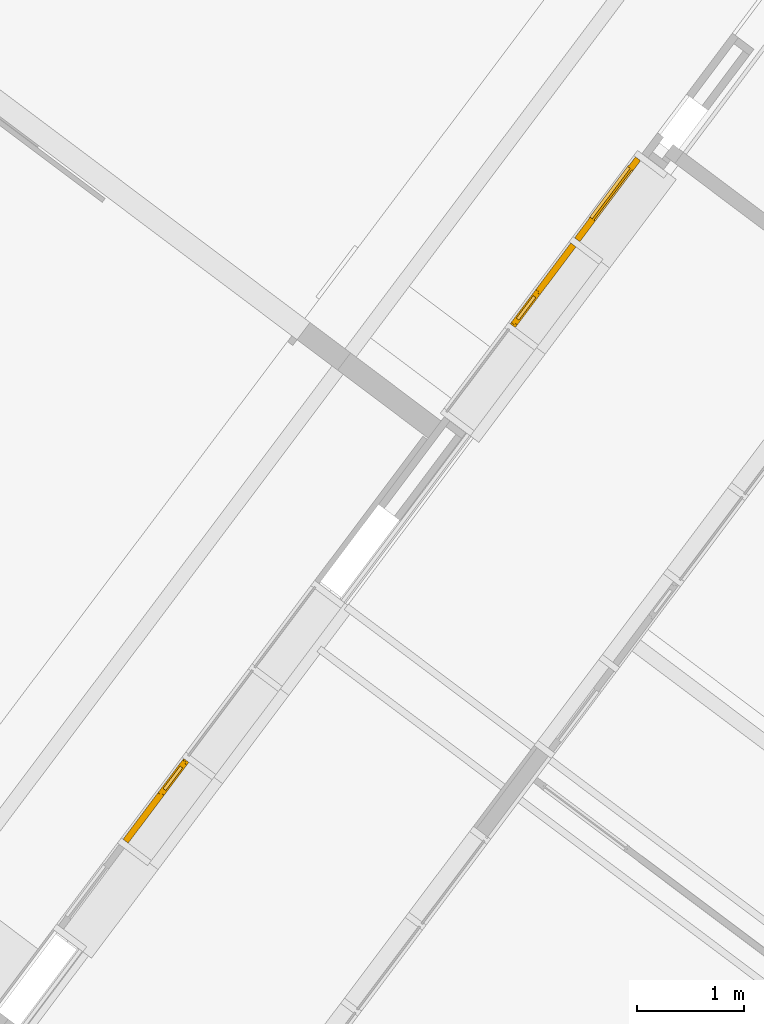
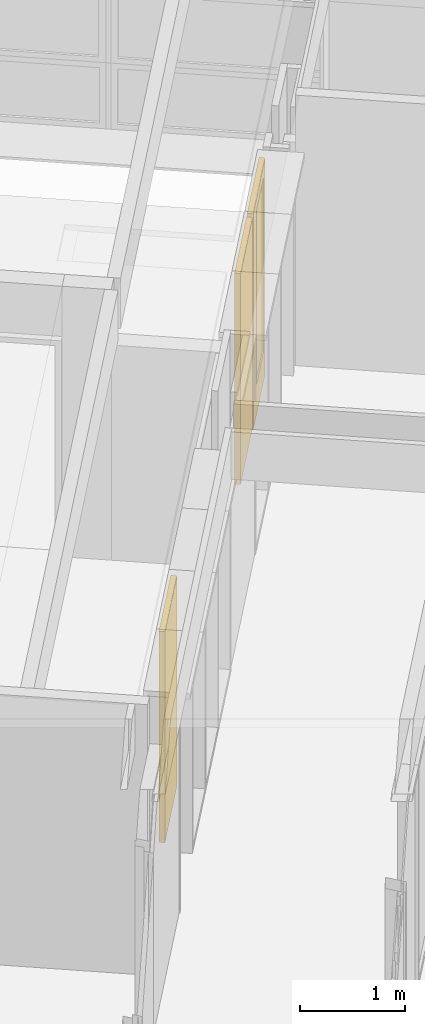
# One storey, part 230 of 243: 2 windows, 1 door, 2 elements without a shape of their own.
"""IFC2X3 building model written with IfcOpenShell, lengths in metres."""

from ifc_helpers import new_model, entity, si_unit, converted_unit, derived_unit, direction, frame, origin, place, context, subcontext, project, spatial, faceted_brep, source, transform, mapped, material, material_list, type_object, type_shapes, element, aggregate, save


model = new_model("IFC2X3")

# Units and contexts
model_context = context("Model", 3, precision=1e-05, world=origin(), true_north=direction((6.123031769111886e-17, 1.0)))
body_context = subcontext(model_context, "Body", "Model", "MODEL_VIEW")
ifc_project = project(units=[si_unit("LENGTHUNIT", "METRE"), si_unit("AREAUNIT", "SQUARE_METRE"), si_unit("VOLUMEUNIT", "CUBIC_METRE"), converted_unit("PLANEANGLEUNIT", "DEGREE", entity("IfcRatioMeasure", 0.017453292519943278), si_unit("PLANEANGLEUNIT", "RADIAN"), dimensions=[0, 0, 0, 0, 0, 0, 0]), si_unit("MASSUNIT", "GRAM", prefix="KILO"), derived_unit("MASSDENSITYUNIT", [(si_unit("MASSUNIT", "GRAM", prefix="KILO"), 1), (si_unit("LENGTHUNIT", "METRE"), -3)]), derived_unit("IONCONCENTRATIONUNIT", [(si_unit("MASSUNIT", "GRAM", prefix="KILO"), 1), (si_unit("LENGTHUNIT", "METRE"), -3)]), derived_unit("MOMENTOFINERTIAUNIT", [(si_unit("LENGTHUNIT", "METRE"), 4)]), si_unit("TIMEUNIT", "SECOND"), si_unit("FREQUENCYUNIT", "HERTZ"), si_unit("THERMODYNAMICTEMPERATUREUNIT", "DEGREE_CELSIUS"), derived_unit("THERMALTRANSMITTANCEUNIT", [(si_unit("MASSUNIT", "GRAM", prefix="KILO"), 1), (si_unit("THERMODYNAMICTEMPERATUREUNIT", "KELVIN"), -1), (si_unit("TIMEUNIT", "SECOND"), -3)]), derived_unit("THERMALCONDUCTANCEUNIT", [(si_unit("MASSUNIT", "GRAM", prefix="KILO"), 1), (si_unit("THERMODYNAMICTEMPERATUREUNIT", "KELVIN"), -1), (si_unit("TIMEUNIT", "SECOND"), -3), (si_unit("LENGTHUNIT", "METRE"), 1)]), derived_unit("VOLUMETRICFLOWRATEUNIT", [(si_unit("LENGTHUNIT", "METRE"), 3), (si_unit("TIMEUNIT", "SECOND"), -1)]), derived_unit("MASSFLOWRATEUNIT", [(si_unit("MASSUNIT", "GRAM", prefix="KILO"), 1), (si_unit("TIMEUNIT", "SECOND"), -1)]), derived_unit("ROTATIONALFREQUENCYUNIT", [(si_unit("TIMEUNIT", "SECOND"), -1)]), si_unit("ELECTRICCURRENTUNIT", "AMPERE"), si_unit("ELECTRICVOLTAGEUNIT", "VOLT"), si_unit("POWERUNIT", "WATT"), si_unit("FORCEUNIT", "NEWTON", prefix="KILO"), si_unit("ILLUMINANCEUNIT", "LUX"), si_unit("LUMINOUSFLUXUNIT", "LUMEN"), si_unit("LUMINOUSINTENSITYUNIT", "CANDELA"), derived_unit("USERDEFINED", [(si_unit("MASSUNIT", "GRAM", prefix="KILO"), -1), (si_unit("LENGTHUNIT", "METRE"), -2), (si_unit("TIMEUNIT", "SECOND"), 3), (si_unit("LUMINOUSFLUXUNIT", "LUMEN"), 1)]), derived_unit("USERDEFINED", [(si_unit("MASSUNIT", "GRAM", prefix="KILO"), 1), (si_unit("TIMEUNIT", "SECOND"), -3), (si_unit("LENGTHUNIT", "METRE"), 3), (si_unit("ELECTRICCURRENTUNIT", "AMPERE"), -2)]), derived_unit("SOUNDPOWERUNIT", [(si_unit("MASSUNIT", "GRAM", prefix="KILO"), 1), (si_unit("TIMEUNIT", "SECOND"), -3), (si_unit("LENGTHUNIT", "METRE"), 2)]), derived_unit("SOUNDPRESSUREUNIT", [(si_unit("MASSUNIT", "GRAM", prefix="KILO"), 1), (si_unit("LENGTHUNIT", "METRE"), -1), (si_unit("TIMEUNIT", "SECOND"), -2)]), derived_unit("LINEARVELOCITYUNIT", [(si_unit("LENGTHUNIT", "METRE"), 1), (si_unit("TIMEUNIT", "SECOND"), -1)]), si_unit("PRESSUREUNIT", "PASCAL"), derived_unit("USERDEFINED", [(si_unit("MASSUNIT", "GRAM", prefix="KILO"), 1), (si_unit("LENGTHUNIT", "METRE"), -2), (si_unit("TIMEUNIT", "SECOND"), -2)]), derived_unit("LINEARFORCEUNIT", [(si_unit("MASSUNIT", "GRAM", prefix="KILO"), 1), (si_unit("TIMEUNIT", "SECOND"), -2)]), derived_unit("PLANARFORCEUNIT", [(si_unit("MASSUNIT", "GRAM", prefix="KILO"), 1), (si_unit("LENGTHUNIT", "METRE"), -1), (si_unit("TIMEUNIT", "SECOND"), -2)]), derived_unit("SPECIFICHEATCAPACITYUNIT", [(si_unit("THERMODYNAMICTEMPERATUREUNIT", "KELVIN"), -1), (si_unit("LENGTHUNIT", "METRE"), 2), (si_unit("TIMEUNIT", "SECOND"), -2)]), derived_unit("HEATINGVALUEUNIT", [(si_unit("LENGTHUNIT", "METRE"), 2), (si_unit("TIMEUNIT", "SECOND"), -2)]), derived_unit("VAPORPERMEABILITYUNIT", [(si_unit("LENGTHUNIT", "METRE"), -1), (si_unit("TIMEUNIT", "SECOND"), 1)]), derived_unit("DYNAMICVISCOSITYUNIT", [(si_unit("MASSUNIT", "GRAM", prefix="KILO"), 1), (si_unit("TIMEUNIT", "SECOND"), -1), (si_unit("LENGTHUNIT", "METRE"), -1)]), derived_unit("THERMALEXPANSIONCOEFFICIENTUNIT", [(si_unit("THERMODYNAMICTEMPERATUREUNIT", "KELVIN"), -1)]), derived_unit("MODULUSOFELASTICITYUNIT", [(si_unit("MASSUNIT", "GRAM", prefix="KILO"), 1), (si_unit("LENGTHUNIT", "METRE"), -1), (si_unit("TIMEUNIT", "SECOND"), -2)]), derived_unit("ISOTHERMALMOISTURECAPACITYUNIT", [(si_unit("LENGTHUNIT", "METRE"), 3), (si_unit("MASSUNIT", "GRAM", prefix="KILO"), -1)]), derived_unit("MOISTUREDIFFUSIVITYUNIT", [(si_unit("TIMEUNIT", "SECOND"), -1), (si_unit("LENGTHUNIT", "METRE"), 2)])], contexts=[model_context])

# Site, building, storey
site_placement = place(None, frame((0.0, 0.0, 235.0), z_axis=(0.0, 0.0, 1.0), x_axis=(-0.7996477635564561, 0.6004693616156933, 0.0)))
site = spatial("IfcSite", under=ifc_project, at=site_placement, Name="Default", CompositionType="ELEMENT")
building_placement = place(site_placement, origin())
building = spatial("IfcBuilding", under=site, at=building_placement, CompositionType="ELEMENT")
storey_placement = place(building_placement, origin())
storey = spatial("IfcBuildingStorey", under=building, at=storey_placement, Name="P0- Escola", CompositionType="ELEMENT", Elevation=0.0)

# Curtain wall, door, window
curtain_wall_type = type_object("IfcCurtainWallType", Name="Muro cortina:MC- INT- a4", PredefinedType="NOTDEFINED")
curtain_wall_1_placement = place(storey_placement, origin())
curtain_wall_1 = element("IfcCurtainWall", 1, at=curtain_wall_1_placement, inside=storey, type_object=curtain_wall_type, Name="Muro cortina:MC- INT- a4", ObjectType="Muro cortina:MC- INT- a4")
ifc_material_1 = material(Name="_Fusta massisa- T1")
ifc_material_2 = material(Name="_Vidre")
ifc_material_list = material_list([ifc_material_1, ifc_material_2])
door_style = type_object("IfcDoorStyle", Name="MC- Fusta- conjunt porta:MC- Fusta- conjunt Porta aules", ConstructionType="NOTDEFINED", OperationType="NOTDEFINED", ParameterTakesPrecedence=False, Sizeable=False, material=ifc_material_list)
shared_shape_1 = source(origin(), body_context, "Body", "Brep", [
    faceted_brep([(0.24625000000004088, -0.024999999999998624, 2.3950000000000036), (0.24625000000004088, -0.024999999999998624, 0.3299999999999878), (0.24625000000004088, 0.005000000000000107, 0.3299999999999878), (0.24625000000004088, 0.005000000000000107, 2.3950000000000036), (-0.3712500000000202, -0.024999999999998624, 0.3299999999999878), (-0.3712500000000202, 0.005000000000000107, 0.3299999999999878), (-0.3712500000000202, -0.024999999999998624, 2.3950000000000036), (-0.3712500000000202, 0.005000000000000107, 2.3950000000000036), (0.2312500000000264, 0.005000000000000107, 2.380000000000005), (-0.35625000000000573, 0.005000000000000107, 2.380000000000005), (-0.3562500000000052, 0.005000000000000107, 0.3449999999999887), (0.2312500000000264, 0.005000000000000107, 0.3449999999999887), (0.2312500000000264, -0.024999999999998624, 2.380000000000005), (0.2312500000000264, -0.024999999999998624, 0.3449999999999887), (-0.3562500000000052, -0.024999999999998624, 0.3449999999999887), (-0.35625000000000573, -0.024999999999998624, 2.380000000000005)], [[[0, 1, 2, 3]], [[1, 4, 5, 2]], [[4, 6, 7, 5]], [[8, 9, 10, 11], [3, 2, 5, 7]], [[12, 13, 14, 15], [0, 6, 4, 1]], [[13, 12, 8, 11]], [[14, 13, 11, 10]], [[15, 14, 10, 9]], [[6, 0, 3, 7]], [[12, 15, 9, 8]]], outer=[[True], [True], [True], [False, True], [False, True], [True], [True], [True], [True], [True]]),
    faceted_brep([(0.44125000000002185, 0.039999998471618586, 0.0), (0.44125000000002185, 0.009999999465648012, 0.0), (0.45625000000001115, 0.009999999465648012, 0.0), (0.45625000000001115, -0.019999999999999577, 0.0), (-0.4562500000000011, -0.0199999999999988, 0.0), (-0.4562500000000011, 0.009999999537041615, 0.0), (-0.4412499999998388, 0.009999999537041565, 0.0), (-0.4412499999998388, 0.039999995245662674, 0.0), (0.4562500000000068, -0.019999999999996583, 2.5050000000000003), (-0.4562500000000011, -0.01999999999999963, 2.5050000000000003), (0.24625000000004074, -0.01999999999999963, 0.3300000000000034), (-0.3712500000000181, -0.0199999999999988, 0.3300000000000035), (-0.3712500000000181, -0.020000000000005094, 2.394999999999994), (0.2462500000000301, -0.01999999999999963, 2.394999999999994), (0.4562500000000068, 0.009999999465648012, 2.5050000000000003), (-0.4562500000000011, 0.009999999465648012, 2.5050000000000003), (0.44125000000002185, 0.039999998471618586, 2.4899999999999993), (0.44125000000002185, 0.009999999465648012, 2.4899999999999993), (-0.4412499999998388, 0.009999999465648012, 2.4899999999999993), (-0.4412499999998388, 0.039999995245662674, 2.4899999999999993), (-0.35625000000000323, 0.03999999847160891, 0.3450000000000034), (0.2312500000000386, 0.039999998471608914, 0.3450000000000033), (0.2312500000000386, 0.03999999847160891, 2.379999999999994), (-0.3562500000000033, 0.03999999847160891, 2.379999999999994), (-0.35625000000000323, 0.025000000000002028, 0.3450000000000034), (0.2312500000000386, 0.025000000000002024, 0.3450000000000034), (0.2312500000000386, 0.024999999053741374, 2.379999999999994), (-0.3562500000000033, 0.03999999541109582, 2.379999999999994), (-0.3562500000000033, 0.024999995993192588, 2.379999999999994), (0.2312500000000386, 0.025000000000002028, 2.379999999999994), (-0.3712500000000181, 0.025000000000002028, 0.3300000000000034), (0.24625000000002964, 0.025000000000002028, 0.3300000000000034), (0.24625000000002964, 0.025000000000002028, 2.394999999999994), (-0.3712500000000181, 0.025000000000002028, 2.394999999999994), (0.24625000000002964, 0.02499999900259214, 0.3300000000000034), (-0.3712500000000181, 0.024999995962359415, 2.394999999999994), (0.24625000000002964, 0.024999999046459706, 2.394999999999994)], [[[0, 1, 2, 3, 4, 5, 6, 7]], [[8, 9, 4, 3], [10, 11, 12, 13]], [[8, 3, 2, 14]], [[15, 5, 4, 9]], [[16, 17, 1, 0]], [[14, 2, 1, 17, 18, 6, 5, 15]], [[18, 19, 7, 6]], [[16, 0, 7, 19], [20, 21, 22, 23]], [[21, 20, 24, 25]], [[21, 25, 26, 22]], [[24, 20, 27, 28]], [[25, 24, 28, 29], [30, 31, 32, 33]], [[11, 10, 31, 30]], [[34, 10, 13, 32]], [[11, 30, 35, 12]], [[9, 8, 14, 15]], [[17, 16, 19, 18]], [[23, 22, 29, 28]], [[13, 12, 33, 36]]], outer=[[True], [True, False], [True], [True], [True], [True], [True], [True, False], [True], [True], [True], [False, True], [True], [True], [True], [True], [True], [True], [True]]),
    faceted_brep([(-0.3712500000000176, 0.024999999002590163, 0.3300000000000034), (0.24625000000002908, 0.024999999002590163, 0.3300000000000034), (0.24625000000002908, 0.005000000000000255, 0.3300000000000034), (-0.3712500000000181, 0.005000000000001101, 0.3300000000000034), (-0.3712500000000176, 0.024999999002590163, 2.3950000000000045), (0.24625000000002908, 0.024999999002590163, 2.3950000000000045), (0.24625000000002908, 0.005000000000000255, 2.3950000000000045), (-0.3712500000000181, 0.005000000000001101, 2.3950000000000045)], [[[0, 1, 2, 3]], [[4, 5, 1, 0]], [[5, 6, 2, 1]], [[6, 7, 3, 2]], [[7, 4, 0, 3]], [[4, 7, 6, 5]]]),
    faceted_brep([(0.4662500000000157, -0.01999999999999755, 0.0), (0.4562500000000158, -0.01999999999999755, 0.0), (0.4562500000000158, 0.010000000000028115, 0.0), (0.4412500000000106, 0.010000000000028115, 0.0), (0.4412500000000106, 0.0400000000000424, 0.0), (0.4662500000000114, 0.0400000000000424, 0.0), (0.4662500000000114, 0.03600000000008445, 0.0), (0.47125000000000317, 0.03600000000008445, 0.0), (0.47125000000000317, -0.015999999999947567, 0.0), (0.4662500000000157, -0.015999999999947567, 0.0), (0.4662500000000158, -0.01999999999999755, 2.5150000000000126), (-0.4662500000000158, -0.01999999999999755, 2.5150000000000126), (-0.4662500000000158, -0.01999999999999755, 0.0), (-0.4562500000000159, -0.01999999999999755, 0.0), (-0.4562500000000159, -0.01999999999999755, 2.5050000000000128), (0.4562500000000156, -0.01999999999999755, 2.505000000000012), (0.4562500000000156, 0.010000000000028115, 2.505000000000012), (-0.4562500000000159, 0.010000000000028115, 2.5050000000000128), (-0.4562500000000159, 0.010000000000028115, 0.0), (-0.4412500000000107, 0.010000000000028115, 0.0), (-0.4412500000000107, 0.010000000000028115, 2.4900000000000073), (0.44125000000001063, 0.010000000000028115, 2.4900000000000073), (0.44125000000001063, 0.0400000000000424, 2.4900000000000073), (-0.4412500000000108, 0.0400000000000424, 2.4900000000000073), (-0.4412500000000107, 0.0400000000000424, 0.0), (-0.4662500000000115, 0.0400000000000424, 0.0), (-0.4662500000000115, 0.0400000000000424, 2.515000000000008), (0.46625000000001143, 0.0400000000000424, 2.515000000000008), (0.46625000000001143, 0.03600000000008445, 2.515000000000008), (-0.46625000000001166, 0.03600000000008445, 2.515000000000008), (-0.4662500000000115, 0.03600000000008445, 0.0), (-0.47125000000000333, 0.03600000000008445, 0.0), (-0.47125000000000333, 0.03600000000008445, 2.52), (0.4712500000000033, 0.03600000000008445, 2.52), (0.4712500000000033, -0.015999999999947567, 2.52), (-0.47125000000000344, -0.015999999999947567, 2.52), (-0.47125000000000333, -0.015999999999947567, 0.0), (-0.4662500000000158, -0.015999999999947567, 0.0), (-0.4662500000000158, -0.015999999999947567, 2.5150000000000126), (0.4662500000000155, -0.015999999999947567, 2.515000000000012)], [[[0, 1, 2, 3, 4, 5, 6, 7, 8, 9]], [[1, 0, 10, 11, 12, 13, 14, 15]], [[2, 1, 15, 16]], [[3, 2, 16, 17, 18, 19, 20, 21]], [[4, 3, 21, 22]], [[5, 4, 22, 23, 24, 25, 26, 27]], [[6, 5, 27, 28]], [[7, 6, 28, 29, 30, 31, 32, 33]], [[8, 7, 33, 34]], [[9, 8, 34, 35, 36, 37, 38, 39]], [[0, 9, 39, 10]], [[11, 38, 37, 12]], [[12, 37, 36, 31, 30, 25, 24, 19, 18, 13]], [[17, 14, 13, 18]], [[23, 20, 19, 24]], [[29, 26, 25, 30]], [[35, 32, 31, 36]], [[16, 15, 14, 17]], [[22, 21, 20, 23]], [[28, 27, 26, 29]], [[34, 33, 32, 35]], [[10, 39, 38, 11]]]),
])
type_shapes(door_style, [shared_shape_1])
door_placement = place(curtain_wall_1_placement, frame((15.955147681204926, -38.91644175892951, 0.0), z_axis=(0.0, 0.0, 1.0), x_axis=(0.0, 1.0, 0.0)))
door = element("IfcDoor", 2, at=door_placement, type_object=door_style, material=ifc_material_list, Name="MC- Fusta- conjunt porta:MC- Fusta- conjunt Porta aules", ObjectType="MC- Fusta- conjunt porta:MC- Fusta- conjunt Porta aules", OverallHeight=2.52, OverallWidth=0.9425000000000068, context=body_context, shape_type="MappedRepresentation", body=[
    mapped(shared_shape_1, transform((0.0, 0.0, 0.0), scale=1.0)),
])
ifc_material_3 = material(Name="_Fusta massisa- T1-  REV- PAV")
window_style_1 = type_object("IfcWindowStyle", Name="MC- Fusta- Finestra ventilacio interior:MC- Fusta- Finestra ventilacio interior", ConstructionType="NOTDEFINED", OperationType="NOTDEFINED", ParameterTakesPrecedence=False, Sizeable=False, material=ifc_material_3)
shared_shape_2 = source(origin(), body_context, "Body", "Brep", [
    faceted_brep([(0.3930000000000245, 0.025000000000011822, 2.382999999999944), (0.13200000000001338, 0.0250000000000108, 2.3829999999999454), (0.13200000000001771, 0.025000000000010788, 1.0449999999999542), (0.3930000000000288, 0.025000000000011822, 1.0449999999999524), (0.13200000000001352, -0.004999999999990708, 2.3829999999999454), (0.13200000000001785, -0.004999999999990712, 1.0449999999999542), (0.3930000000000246, -0.004999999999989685, 2.382999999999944), (0.393000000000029, -0.00499999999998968, 1.0449999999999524), (0.08700000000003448, 0.04000000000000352, 2.427999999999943), (0.08700000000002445, 0.04000000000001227, 1.0), (0.08700000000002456, 0.01000000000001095, 1.0), (0.0870000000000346, 0.01000000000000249, 2.427999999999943), (0.4380000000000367, 0.010000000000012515, 1.0), (0.4380000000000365, 0.04000000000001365, 1.0), (0.43800000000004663, 0.0400000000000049, 2.427999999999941), (0.4380000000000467, 0.010000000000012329, 2.428000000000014), (0.07200000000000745, 0.009999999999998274, 0.9850000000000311), (0.07200000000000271, 0.010000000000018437, 2.44300000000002), (0.4530000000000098, 0.010000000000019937, 2.4430000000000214), (0.4530000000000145, 0.009999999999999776, 0.9850000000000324), (0.07200000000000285, -0.019999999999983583, 2.443000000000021), (0.07200000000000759, -0.020000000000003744, 0.9850000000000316), (0.45300000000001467, -0.02000000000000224, 0.985000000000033), (0.4530000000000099, -0.019999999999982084, 2.443000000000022)], [[[0, 1, 2, 3]], [[1, 4, 5, 2]], [[4, 6, 7, 5]], [[3, 7, 6, 0]], [[8, 9, 10, 11]], [[12, 13, 14, 15]], [[15, 14, 8, 11]], [[8, 14, 13, 9]], [[0, 6, 4, 1]], [[2, 5, 7, 3]], [[9, 13, 12, 10]], [[11, 10, 12, 15], [16, 17, 18, 19]], [[20, 21, 22, 23]], [[20, 23, 18, 17]], [[16, 21, 20, 17]], [[18, 23, 22, 19]], [[16, 19, 22, 21]]], outer=[[True], [True], [True], [True], [True], [True], [True], [True], [True], [True], [True], [False, True], [True], [True], [True], [True], [True]]),
    faceted_brep([(0.45500000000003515, -0.019999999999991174, 0.9850000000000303), (0.07000000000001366, -0.019999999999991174, 0.9850000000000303), (0.07000000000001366, -0.019999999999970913, 2.4449999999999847), (0.45500000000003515, -0.01999999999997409, 2.444999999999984), (-0.46500000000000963, -0.019999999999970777, 2.4549999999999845), (-0.4650000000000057, -0.020000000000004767, 0.005000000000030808), (0.46500000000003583, -0.020000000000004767, 0.00499999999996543), (0.46500000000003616, -0.019999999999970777, 2.4549999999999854), (0.4650000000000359, -0.01599999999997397, 2.454999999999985), (0.4650000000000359, -0.01600000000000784, 0.00499999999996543), (-0.46500000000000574, -0.01600000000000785, 0.005000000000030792), (0.47000000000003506, -0.015999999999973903, 2.459999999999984), (-0.47000000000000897, -0.015999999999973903, 2.459999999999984), (-0.4700000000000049, -0.016000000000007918, 0.0), (0.47000000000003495, -0.016000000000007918, 0.0), (-0.46500000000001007, -0.01599999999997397, 2.455000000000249), (-0.46500000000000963, 0.03600000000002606, 2.454999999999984), (-0.4650000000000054, 0.03599999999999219, 0.005000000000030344), (0.4650000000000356, 0.03599999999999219, 0.00499999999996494), (0.46500000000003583, 0.03600000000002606, 2.454999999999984), (-0.47000000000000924, 0.036000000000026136, 2.459999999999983), (0.470000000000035, 0.036000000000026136, 2.459999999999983), (0.46999999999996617, 0.03599999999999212, 0.0), (-0.4700000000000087, 0.03599999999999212, 0.0), (-0.46500000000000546, 0.03999999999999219, 0.005000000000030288), (0.46500000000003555, 0.03999999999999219, 0.005000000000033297), (0.08500000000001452, 0.040000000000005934, 1.0), (0.4400000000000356, 0.04000000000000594, 1.0), (0.4400000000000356, 0.040000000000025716, 2.4299999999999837), (0.08500000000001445, 0.040000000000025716, 2.4299999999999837), (-0.46500000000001, 0.040000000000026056, 2.4550000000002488), (0.4650000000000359, 0.040000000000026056, 2.454999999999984), (0.45500000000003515, 0.010000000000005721, 0.9850000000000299), (0.4550000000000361, 0.010000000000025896, 2.4449999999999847), (0.08500000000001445, 0.0100000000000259, 2.444999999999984), (0.07000000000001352, 0.010000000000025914, 2.444999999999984), (0.07000000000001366, 0.010000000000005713, 0.9850000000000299), (0.08500000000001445, 0.010000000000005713, 0.9850000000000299), (0.4400000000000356, 0.01000000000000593, 1.0), (0.08500000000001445, 0.010000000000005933, 1.0), (0.08500000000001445, 0.010000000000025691, 2.4299999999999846), (0.4400000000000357, 0.010000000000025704, 2.429999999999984)], [[[0, 1, 2, 3], [4, 5, 6, 7]], [[8, 7, 6, 9]], [[5, 10, 9, 6]], [[11, 12, 13, 14], [10, 15, 8, 9]], [[16, 17, 18, 19], [20, 21, 22, 23]], [[17, 24, 25, 18]], [[26, 27, 28, 29], [24, 30, 31, 25]], [[32, 33, 34, 35, 36, 37], [38, 39, 40, 41]], [[26, 39, 38, 27]], [[39, 26, 29, 40]], [[41, 28, 27, 38]], [[3, 33, 32, 0]], [[1, 36, 35, 2]], [[36, 1, 0, 32, 37]], [[4, 15, 10, 5]], [[16, 30, 24, 17]], [[12, 20, 23, 13]], [[13, 23, 22, 14]], [[21, 11, 14, 22]], [[7, 8, 15, 4]], [[11, 21, 20, 12]], [[33, 3, 2, 35, 34]], [[28, 41, 40, 29]], [[19, 31, 30, 16]], [[31, 19, 18, 25]]], outer=[[False, True], [True], [True], [True, False], [False, True], [True], [False, True], [True, False], [True], [True], [True], [True], [True], [True], [True], [True], [True], [True], [True], [True], [True], [True], [True], [True], [True]]),
])
type_shapes(window_style_1, [shared_shape_2])
window_1_placement = place(curtain_wall_1_placement, frame((15.955147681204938, -37.9151917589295, 0.06), z_axis=(0.0, 0.0, 1.0), x_axis=(0.0, 1.0, 0.0)))
window_1 = element("IfcWindow", 3, at=window_1_placement, type_object=window_style_1, material=ifc_material_3, Name="MC- Fusta- Finestra ventilacio interior:MC- Fusta- Finestra ventilacio interior", ObjectType="MC- Fusta- Finestra ventilacio interior:MC- Fusta- Finestra ventilacio interior", OverallHeight=2.460000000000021, OverallWidth=0.9400000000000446, context=body_context, shape_type="MappedRepresentation", body=[
    mapped(shared_shape_2, transform((0.0, 0.0, 0.0), scale=1.0)),
])
aggregate(curtain_wall_1, [door, window_1])

# Curtain wall, window
curtain_wall_2_placement = place(storey_placement, origin())
curtain_wall_2 = element("IfcCurtainWall", 4, at=curtain_wall_2_placement, inside=storey, type_object=curtain_wall_type, Name="Muro cortina:MC- INT- a4", ObjectType="Muro cortina:MC- INT- a4")
window_style_2 = type_object("IfcWindowStyle", Name="MC- Fusta- Finestra ventilacio interior:MC- Fusta- Finestra ventilacio interior", ConstructionType="NOTDEFINED", OperationType="NOTDEFINED", ParameterTakesPrecedence=False, Sizeable=False, material=ifc_material_3)
shared_shape_3 = source(origin(), body_context, "Body", "Brep", [
    faceted_brep([(-0.3930000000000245, 0.025000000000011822, 2.382999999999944), (-0.3930000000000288, 0.025000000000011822, 1.0449999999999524), (-0.13200000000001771, 0.0250000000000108, 1.0449999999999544), (-0.13200000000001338, 0.02500000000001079, 2.382999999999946), (-0.13200000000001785, -0.004999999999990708, 1.0449999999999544), (-0.13200000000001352, -0.004999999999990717, 2.382999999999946), (-0.393000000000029, -0.004999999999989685, 1.0449999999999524), (-0.39300000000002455, -0.004999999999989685, 2.382999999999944), (-0.08700000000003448, 0.04000000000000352, 2.427999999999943), (-0.0870000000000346, 0.01000000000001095, 2.428000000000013), (-0.08700000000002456, 0.010000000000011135, 1.0), (-0.08700000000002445, 0.04000000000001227, 1.0), (-0.4380000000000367, 0.010000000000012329, 1.0), (-0.4380000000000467, 0.010000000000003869, 2.427999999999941), (-0.43800000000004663, 0.0400000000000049, 2.427999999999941), (-0.4380000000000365, 0.04000000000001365, 1.0), (-0.07200000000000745, 0.009999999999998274, 0.9850000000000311), (-0.4530000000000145, 0.009999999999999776, 0.9850000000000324), (-0.4530000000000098, 0.010000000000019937, 2.4430000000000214), (-0.07200000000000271, 0.010000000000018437, 2.44300000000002), (-0.07200000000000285, -0.019999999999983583, 2.443000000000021), (-0.4530000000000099, -0.019999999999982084, 2.443000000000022), (-0.45300000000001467, -0.02000000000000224, 0.985000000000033), (-0.07200000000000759, -0.020000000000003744, 0.9850000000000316)], [[[0, 1, 2, 3]], [[3, 2, 4, 5]], [[5, 4, 6, 7]], [[1, 0, 7, 6]], [[8, 9, 10, 11]], [[12, 13, 14, 15]], [[13, 9, 8, 14]], [[8, 11, 15, 14]], [[0, 3, 5, 7]], [[2, 1, 6, 4]], [[11, 10, 12, 15]], [[9, 13, 12, 10], [16, 17, 18, 19]], [[20, 21, 22, 23]], [[20, 19, 18, 21]], [[16, 19, 20, 23]], [[18, 17, 22, 21]], [[16, 23, 22, 17]]], outer=[[True], [True], [True], [True], [True], [True], [True], [True], [True], [True], [True], [False, True], [True], [True], [True], [True], [True]]),
    faceted_brep([(0.46500000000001, -0.019999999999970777, 2.4549999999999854), (-0.465000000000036, -0.019999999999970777, 2.4549999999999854), (-0.46499999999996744, -0.020000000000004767, 0.005000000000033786), (0.46500000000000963, -0.020000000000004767, 0.0050000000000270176), (-0.45500000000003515, -0.019999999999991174, 0.9850000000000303), (-0.4550000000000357, -0.01999999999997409, 2.4449999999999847), (-0.07000000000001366, -0.019999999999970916, 2.4449999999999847), (-0.07000000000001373, -0.019999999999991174, 0.9850000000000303), (-0.4650000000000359, -0.01599999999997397, 2.454999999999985), (-0.46500000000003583, -0.01600000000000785, 0.005000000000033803), (0.4650000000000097, -0.01600000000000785, 0.005000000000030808), (0.4650000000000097, -0.01599999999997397, 2.4549999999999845), (-0.470000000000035, -0.015999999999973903, 2.459999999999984), (-0.4699999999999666, -0.016000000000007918, 0.0), (0.47000000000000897, -0.016000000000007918, 0.0), (0.47000000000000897, -0.015999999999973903, 2.459999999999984), (0.46500000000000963, 0.03600000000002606, 2.454999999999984), (-0.4650000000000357, 0.03600000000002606, 2.454999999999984), (-0.46499999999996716, 0.03599999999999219, 0.005000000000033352), (0.46500000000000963, 0.03599999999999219, 0.005000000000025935), (0.4700000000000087, 0.036000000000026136, 2.4599999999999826), (0.47000000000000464, 0.03599999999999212, 0.0), (-0.4700000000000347, 0.03599999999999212, 0.0), (-0.4700000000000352, 0.036000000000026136, 2.459999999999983), (-0.46499999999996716, 0.03999999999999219, 0.005000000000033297), (0.4650000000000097, 0.03999999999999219, 0.005000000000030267), (-0.4650000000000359, 0.040000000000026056, 2.4550000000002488), (0.4650000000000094, 0.040000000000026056, 2.454999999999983), (-0.08500000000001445, 0.04000000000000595, 1.0), (-0.08500000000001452, 0.04000000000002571, 2.4299999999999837), (-0.4400000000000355, 0.040000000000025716, 2.4299999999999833), (-0.4400000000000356, 0.04000000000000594, 1.0), (-0.4400000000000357, 0.01000000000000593, 1.0), (-0.44000000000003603, 0.010000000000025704, 2.4299999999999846), (-0.08500000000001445, 0.010000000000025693, 2.4299999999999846), (-0.08500000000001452, 0.010000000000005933, 1.0), (-0.45500000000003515, 0.010000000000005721, 0.9850000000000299), (-0.08500000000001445, 0.010000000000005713, 0.9850000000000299), (-0.07000000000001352, 0.010000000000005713, 0.9850000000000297), (-0.07000000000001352, 0.0100000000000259, 2.444999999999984), (-0.08500000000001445, 0.0100000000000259, 2.444999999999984), (-0.4550000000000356, 0.010000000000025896, 2.4449999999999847)], [[[0, 1, 2, 3], [4, 5, 6, 7]], [[8, 9, 2, 1]], [[3, 2, 9, 10]], [[10, 9, 8, 11], [12, 13, 14, 15]], [[16, 17, 18, 19], [20, 21, 22, 23]], [[19, 18, 24, 25]], [[25, 24, 26, 27], [28, 29, 30, 31]], [[32, 33, 34, 35], [36, 37, 38, 39, 40, 41]], [[28, 31, 32, 35]], [[35, 34, 29, 28]], [[33, 32, 31, 30]], [[5, 4, 36, 41]], [[7, 6, 39, 38]], [[38, 37, 36, 4, 7]], [[0, 3, 10, 11]], [[16, 19, 25, 27]], [[15, 14, 21, 20]], [[14, 13, 22, 21]], [[23, 22, 13, 12]], [[1, 0, 11, 8]], [[12, 15, 20, 23]], [[41, 40, 39, 6, 5]], [[30, 29, 34, 33]], [[17, 16, 27, 26]], [[26, 24, 18, 17]]], outer=[[True, False], [True], [True], [False, True], [False, True], [True], [True, False], [False, True], [True], [True], [True], [True], [True], [True], [True], [True], [True], [True], [True], [True], [True], [True], [True], [True], [True]]),
])
type_shapes(window_style_2, [shared_shape_3])
window_2_placement = place(curtain_wall_2_placement, frame((15.955147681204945, -31.915191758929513, 0.06), z_axis=(0.0, 0.0, 1.0), x_axis=(0.0, 1.0, 0.0)))
window_2 = element("IfcWindow", 5, at=window_2_placement, type_object=window_style_2, material=ifc_material_3, Name="MC- Fusta- Finestra ventilacio interior:MC- Fusta- Finestra ventilacio interior", ObjectType="MC- Fusta- Finestra ventilacio interior:MC- Fusta- Finestra ventilacio interior", OverallHeight=2.460000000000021, OverallWidth=0.9400000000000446, context=body_context, shape_type="MappedRepresentation", body=[
    mapped(shared_shape_3, transform((0.0, 0.0, 0.0), scale=1.0)),
])
aggregate(curtain_wall_2, [window_2])

save(model, "model.ifc")
